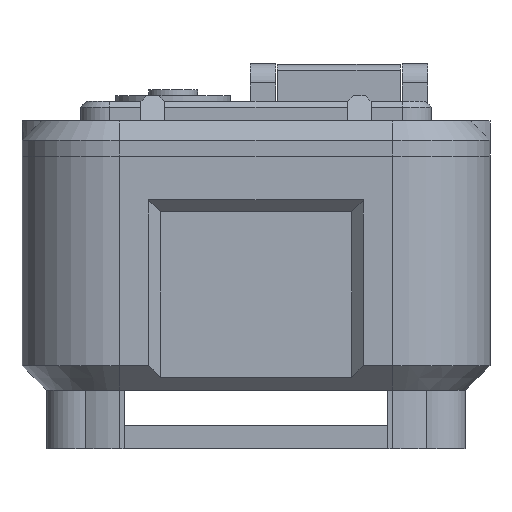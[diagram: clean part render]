
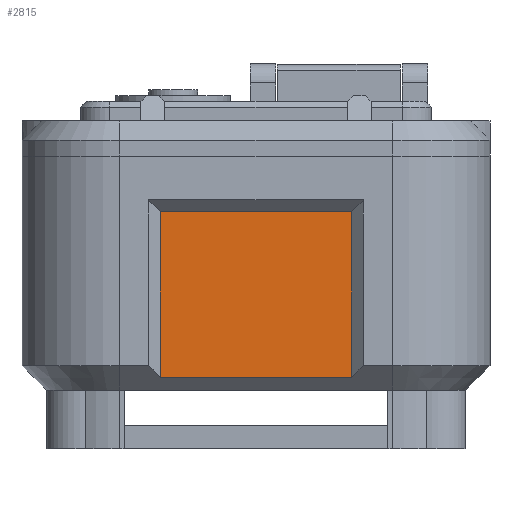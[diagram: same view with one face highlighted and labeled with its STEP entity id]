
A CAD part, front view. The second image highlights one B-rep face of the part: STEP entity #2815.
In plain terms, the highlighted planar face has unit normal (0, -1, 0).
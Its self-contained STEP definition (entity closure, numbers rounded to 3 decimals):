
#118 = PLANE('',#119);
#119 = AXIS2_PLACEMENT_3D('',#120,#121,#122);
#120 = CARTESIAN_POINT('',(38.,1.25,1.25));
#121 = DIRECTION('',(0.,-0.707,-0.707));
#122 = DIRECTION('',(-1.,-0.,0.));
#252 = PLANE('',#253);
#253 = AXIS2_PLACEMENT_3D('',#254,#255,#256);
#254 = CARTESIAN_POINT('',(33.8,1.2,-2.));
#255 = DIRECTION('',(0.707,0.707,-0.));
#256 = DIRECTION('',(0.707,-0.707,0.));
#278 = PLANE('',#279);
#279 = AXIS2_PLACEMENT_3D('',#280,#281,#282);
#280 = CARTESIAN_POINT('',(11.,1.2,18.3));
#281 = DIRECTION('',(0.,-0.707,-0.707));
#282 = DIRECTION('',(0.,-0.707,0.707));
#302 = PLANE('',#303);
#303 = AXIS2_PLACEMENT_3D('',#304,#305,#306);
#304 = CARTESIAN_POINT('',(12.,-1.,-2.));
#305 = DIRECTION('',(-0.707,0.707,0.));
#306 = DIRECTION('',(0.707,0.707,0.));
#344 = VERTEX_POINT('',#345);
#345 = CARTESIAN_POINT('',(33.8,1.2,1.3));
#364 = EDGE_CURVE('',#344,#365,#367,.T.);
#365 = VERTEX_POINT('',#366);
#366 = CARTESIAN_POINT('',(14.2,1.2,1.3));
#367 = SURFACE_CURVE('',#368,(#372,#378),.PCURVE_S1.);
#368 = LINE('',#369,#370);
#369 = CARTESIAN_POINT('',(24.5,1.2,1.3));
#370 = VECTOR('',#371,1.);
#371 = DIRECTION('',(-1.,-0.,0.));
#372 = PCURVE('',#118,#373);
#373 = DEFINITIONAL_REPRESENTATION('',(#374),#377);
#374 = B_SPLINE_CURVE_WITH_KNOTS('',1,(#375,#376),.UNSPECIFIED.,.F.,.F.,
  (2,2),(-9.3,10.3),.PIECEWISE_BEZIER_KNOTS.);
#375 = CARTESIAN_POINT('',(4.2,-0.071));
#376 = CARTESIAN_POINT('',(23.8,-0.071));
#377 = ( GEOMETRIC_REPRESENTATION_CONTEXT(2) 
PARAMETRIC_REPRESENTATION_CONTEXT() REPRESENTATION_CONTEXT('2D SPACE',''
  ) );
#378 = PCURVE('',#379,#384);
#379 = PLANE('',#380);
#380 = AXIS2_PLACEMENT_3D('',#381,#382,#383);
#381 = CARTESIAN_POINT('',(11.,1.2,-1.));
#382 = DIRECTION('',(0.,-1.,0.));
#383 = DIRECTION('',(0.,0.,1.));
#384 = DEFINITIONAL_REPRESENTATION('',(#385),#388);
#385 = B_SPLINE_CURVE_WITH_KNOTS('',1,(#386,#387),.UNSPECIFIED.,.F.,.F.,
  (2,2),(-9.3,10.3),.PIECEWISE_BEZIER_KNOTS.);
#386 = CARTESIAN_POINT('',(2.3,-22.8));
#387 = CARTESIAN_POINT('',(2.3,-3.2));
#388 = ( GEOMETRIC_REPRESENTATION_CONTEXT(2) 
PARAMETRIC_REPRESENTATION_CONTEXT() REPRESENTATION_CONTEXT('2D SPACE',''
  ) );
#465 = EDGE_CURVE('',#365,#466,#468,.T.);
#466 = VERTEX_POINT('',#467);
#467 = CARTESIAN_POINT('',(14.2,1.2,18.3));
#468 = SURFACE_CURVE('',#469,(#473,#480),.PCURVE_S1.);
#469 = LINE('',#470,#471);
#470 = CARTESIAN_POINT('',(14.2,1.2,-2.));
#471 = VECTOR('',#472,1.);
#472 = DIRECTION('',(0.,0.,1.));
#473 = PCURVE('',#302,#474);
#474 = DEFINITIONAL_REPRESENTATION('',(#475),#479);
#475 = LINE('',#476,#477);
#476 = CARTESIAN_POINT('',(3.111,0.));
#477 = VECTOR('',#478,1.);
#478 = DIRECTION('',(0.,-1.));
#479 = ( GEOMETRIC_REPRESENTATION_CONTEXT(2) 
PARAMETRIC_REPRESENTATION_CONTEXT() REPRESENTATION_CONTEXT('2D SPACE',''
  ) );
#480 = PCURVE('',#379,#481);
#481 = DEFINITIONAL_REPRESENTATION('',(#482),#486);
#482 = LINE('',#483,#484);
#483 = CARTESIAN_POINT('',(-1.,-3.2));
#484 = VECTOR('',#485,1.);
#485 = DIRECTION('',(1.,0.));
#486 = ( GEOMETRIC_REPRESENTATION_CONTEXT(2) 
PARAMETRIC_REPRESENTATION_CONTEXT() REPRESENTATION_CONTEXT('2D SPACE',''
  ) );
#514 = EDGE_CURVE('',#466,#515,#517,.T.);
#515 = VERTEX_POINT('',#516);
#516 = CARTESIAN_POINT('',(33.8,1.2,18.3));
#517 = SURFACE_CURVE('',#518,(#522,#529),.PCURVE_S1.);
#518 = LINE('',#519,#520);
#519 = CARTESIAN_POINT('',(11.,1.2,18.3));
#520 = VECTOR('',#521,1.);
#521 = DIRECTION('',(1.,0.,0.));
#522 = PCURVE('',#278,#523);
#523 = DEFINITIONAL_REPRESENTATION('',(#524),#528);
#524 = LINE('',#525,#526);
#525 = CARTESIAN_POINT('',(0.,0.));
#526 = VECTOR('',#527,1.);
#527 = DIRECTION('',(0.,-1.));
#528 = ( GEOMETRIC_REPRESENTATION_CONTEXT(2) 
PARAMETRIC_REPRESENTATION_CONTEXT() REPRESENTATION_CONTEXT('2D SPACE',''
  ) );
#529 = PCURVE('',#379,#530);
#530 = DEFINITIONAL_REPRESENTATION('',(#531),#535);
#531 = LINE('',#532,#533);
#532 = CARTESIAN_POINT('',(19.3,0.));
#533 = VECTOR('',#534,1.);
#534 = DIRECTION('',(0.,-1.));
#535 = ( GEOMETRIC_REPRESENTATION_CONTEXT(2) 
PARAMETRIC_REPRESENTATION_CONTEXT() REPRESENTATION_CONTEXT('2D SPACE',''
  ) );
#560 = EDGE_CURVE('',#344,#515,#561,.T.);
#561 = SURFACE_CURVE('',#562,(#566,#573),.PCURVE_S1.);
#562 = LINE('',#563,#564);
#563 = CARTESIAN_POINT('',(33.8,1.2,-2.));
#564 = VECTOR('',#565,1.);
#565 = DIRECTION('',(0.,0.,1.));
#566 = PCURVE('',#252,#567);
#567 = DEFINITIONAL_REPRESENTATION('',(#568),#572);
#568 = LINE('',#569,#570);
#569 = CARTESIAN_POINT('',(0.,0.));
#570 = VECTOR('',#571,1.);
#571 = DIRECTION('',(0.,-1.));
#572 = ( GEOMETRIC_REPRESENTATION_CONTEXT(2) 
PARAMETRIC_REPRESENTATION_CONTEXT() REPRESENTATION_CONTEXT('2D SPACE',''
  ) );
#573 = PCURVE('',#379,#574);
#574 = DEFINITIONAL_REPRESENTATION('',(#575),#579);
#575 = LINE('',#576,#577);
#576 = CARTESIAN_POINT('',(-1.,-22.8));
#577 = VECTOR('',#578,1.);
#578 = DIRECTION('',(1.,0.));
#579 = ( GEOMETRIC_REPRESENTATION_CONTEXT(2) 
PARAMETRIC_REPRESENTATION_CONTEXT() REPRESENTATION_CONTEXT('2D SPACE',''
  ) );
#2815 = ADVANCED_FACE('',(#2816),#379,.T.);
#2816 = FACE_BOUND('',#2817,.T.);
#2817 = EDGE_LOOP('',(#2818,#2819,#2820,#2821));
#2818 = ORIENTED_EDGE('',*,*,#465,.F.);
#2819 = ORIENTED_EDGE('',*,*,#364,.F.);
#2820 = ORIENTED_EDGE('',*,*,#560,.T.);
#2821 = ORIENTED_EDGE('',*,*,#514,.F.);
